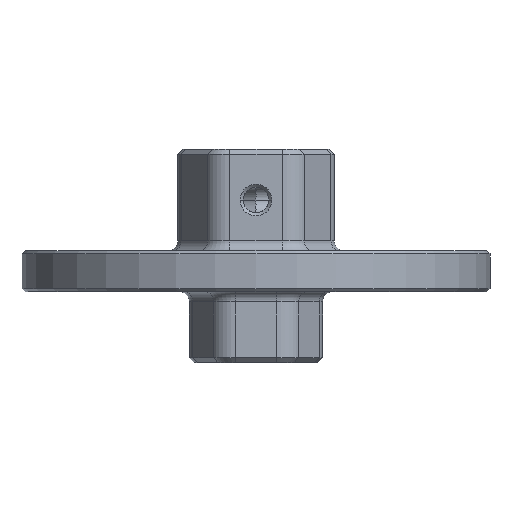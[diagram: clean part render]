
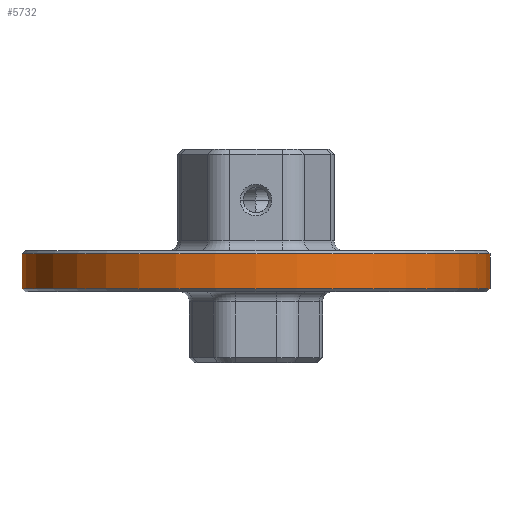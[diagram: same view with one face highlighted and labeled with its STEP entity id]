
A CAD part, front view. The second image highlights one B-rep face of the part: STEP entity #5732.
In plain terms, the highlighted cylindrical face has radius 23 mm (diameter 46 mm), a partial arc.
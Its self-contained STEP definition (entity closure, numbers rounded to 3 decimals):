
#2233=DIRECTION('',(0.,0.,1.));
#2234=VECTOR('',#2233,3.4);
#2235=CARTESIAN_POINT('',(23.,0.,
0.3));
#2236=LINE('',#2235,#2234);
#2240=CARTESIAN_POINT('',(0.,0.,3.7));
#2241=DIRECTION('',(0.,0.,1.));
#2242=DIRECTION('',(-1.,0.,0.));
#2243=AXIS2_PLACEMENT_3D('',#2240,#2241,#2242);
#2248=CARTESIAN_POINT('',(0.,0.,0.3));
#2249=DIRECTION('',(0.,0.,-1.));
#2250=DIRECTION('',(1.,0.,0.));
#2251=AXIS2_PLACEMENT_3D('',#2248,#2249,#2250);
#2256=DIRECTION('',(0.,0.,1.));
#2257=VECTOR('',#2256,3.4);
#2258=CARTESIAN_POINT('',(-23.,0.,
0.3));
#2259=LINE('',#2258,#2257);
#3883=CARTESIAN_POINT('',(-23.,0.,3.7));
#3884=CARTESIAN_POINT('',(23.,0.,3.7));
#3885=VERTEX_POINT('',#3883);
#3886=VERTEX_POINT('',#3884);
#3891=CARTESIAN_POINT('',(23.,0.,0.3));
#3892=CARTESIAN_POINT('',(-23.,0.,0.3));
#3893=VERTEX_POINT('',#3891);
#3894=VERTEX_POINT('',#3892);
#5720=CARTESIAN_POINT('',(0.,0.,0.));
#5721=DIRECTION('',(0.,0.,1.));
#5722=DIRECTION('',(1.,0.,0.));
#5723=AXIS2_PLACEMENT_3D('',#5720,#5721,#5722);
#5724=CYLINDRICAL_SURFACE('',#5723,23.);
#5725=ORIENTED_EDGE('',*,*,#5685,.T.);
#5726=ORIENTED_EDGE('',*,*,#5715,.F.);
#5728=ORIENTED_EDGE('',*,*,#5727,.T.);
#5729=ORIENTED_EDGE('',*,*,#5711,.T.);
#5730=EDGE_LOOP('',(#5725,#5726,#5728,#5729));
#5731=FACE_OUTER_BOUND('',#5730,.F.);
#2244=CIRCLE('',#2243,23.);
#2252=CIRCLE('',#2251,23.);
#5685=EDGE_CURVE('',#3885,#3886,#2244,.T.);
#5711=EDGE_CURVE('',#3894,#3885,#2259,.T.);
#5715=EDGE_CURVE('',#3893,#3886,#2236,.T.);
#5727=EDGE_CURVE('',#3893,#3894,#2252,.T.);
#5732=ADVANCED_FACE('',(#5731),#5724,.T.);
